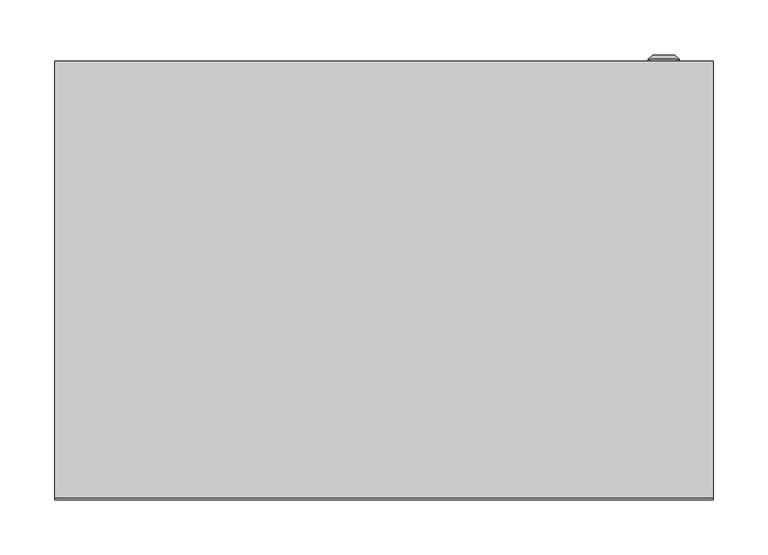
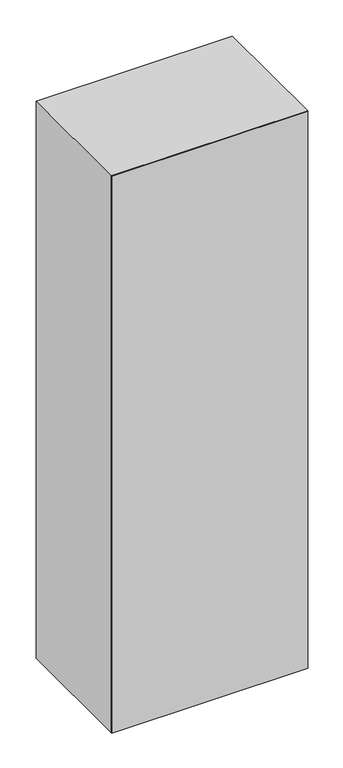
"""IFC4 building model written with IfcOpenShell, lengths in millimetres: proxy geometry, ЩМП : ЩМП-18.6.4-0_1800х600х400."""

from ifc_helpers import new_model, si_unit, frame, origin, origin_with_axes, place, context, project, spatial, polyline, circle_curve, outline, extrude, source, transform, mapped, element, save
from ifc_brep_helpers import plane_surface, cylinder_surface, revolved_surface, advanced_brep


def electrical_equipment_190d6f64(model_context):
    return source(origin(), model_context, "Body", "SolidModel", [
        advanced_brep(
        [(240.669873, 400.0, 900.0), (269.330127, 400.0, 900.0), (255.0, 400.0, 900.0), (240.669873, 402.366592, 900.0), (269.330127, 402.366592, 900.0), (245.0, 406.0, 900.0), (265.0, 406.0, 900.0), (253.1080471, 406.0, 900.0), (256.8919529, 406.0, 900.0), (253.1080471, 404.9822294, 900.0), (256.8919529, 404.9822294, 900.0), (255.0, 404.9822294, 900.0)],
        [
            (0, 1, circle_curve(frame((255.0, 400.0, 900.0), z_axis=(0.0, -1.0, 0.0), x_axis=(1.0, 0.0, 0.0)), 14.330127)),
            (1, 2),
            (2, 0),
            (1, 0, circle_curve(frame((255.0, 400.0, 900.0), z_axis=(0.0, -1.0, 0.0), x_axis=(1.0, 0.0, 0.0)), 14.330127)),
            (3, 4, circle_curve(frame((255.0, 402.366592, 900.0), z_axis=(0.0, -1.0, 0.0), x_axis=(1.0, 0.0, 0.0)), 14.330127)),
            (4, 1),
            (0, 3),
            (4, 3, circle_curve(frame((255.0, 402.366592, 900.0), z_axis=(0.0, -1.0, 0.0), x_axis=(1.0, 0.0, 0.0)), 14.330127)),
            (5, 6, circle_curve(frame((255.0, 406.0, 900.0), z_axis=(0.0, -1.0, 0.0), x_axis=(1.0, 0.0, 0.0)), 10.0)),
            (6, 4),
            (3, 5),
            (6, 5, circle_curve(frame((255.0, 406.0, 900.0), z_axis=(0.0, -1.0, 0.0), x_axis=(1.0, 0.0, 0.0)), 10.0)),
            (7, 8, circle_curve(frame((255.0, 406.0, 900.0), z_axis=(0.0, -1.0, 0.0), x_axis=(1.0, 0.0, 0.0)), 1.8919529)),
            (8, 6),
            (5, 7),
            (8, 7, circle_curve(frame((255.0, 406.0, 900.0), z_axis=(0.0, -1.0, 0.0), x_axis=(1.0, 0.0, 0.0)), 1.8919529)),
            (9, 10, circle_curve(frame((255.0, 404.9822294, 900.0), z_axis=(0.0, -1.0, 0.0), x_axis=(1.0, 0.0, 0.0)), 1.8919529)),
            (10, 8),
            (7, 9),
            (10, 9, circle_curve(frame((255.0, 404.9822294, 900.0), z_axis=(0.0, -1.0, 0.0), x_axis=(1.0, 0.0, 0.0)), 1.8919529)),
            (11, 10),
            (9, 11),
        ],
        [
            plane_surface(frame((255.0, 400.0, 900.0), z_axis=(0.0, -1.0, 0.0), x_axis=(1.0, 0.0, 0.0))),
            cylinder_surface(frame((255.0, 413.1348851, 900.0), z_axis=(0.0, 1.0, 0.0), x_axis=(1.0, 0.0, 0.0)), 14.330127),
            revolved_surface(polyline([(269.330127, 402.366592, 900.0), (265.0, 406.0, 900.0)]), (255.0, 413.1348851, 900.0), (0.0, 1.0, 0.0)),
            plane_surface(frame((255.0, 406.0, 900.0), z_axis=(0.0, 1.0, 0.0), x_axis=(1.0, 0.0, 0.0))),
            revolved_surface(polyline([(256.8919529, 406.0, 900.0), (256.8919529, 404.9822294, 900.0)]), (255.0, 413.1348851, 900.0), (0.0, 1.0, 0.0)),
            plane_surface(frame((255.0, 404.9822294, 900.0), z_axis=(0.0, 1.0, 0.0), x_axis=(1.0, 0.0, 0.0))),
        ],
        [
            (0, [[1, 2, 3]]),
            (0, [[4, -3, -2]]),
            (1, [[5, 6, -1, 7]]),
            (1, [[8, -7, -4, -6]]),
            (2, [[9, 10, -5, 11]]),
            (2, [[12, -11, -8, -10]]),
            (3, [[13, 14, -9, 15]]),
            (3, [[16, -15, -12, -14]]),
            (4, [[17, 18, -13, 19]]),
            (4, [[20, -19, -16, -18]]),
            (5, [[21, -17, 22]]),
            (5, [[-22, -20, -21]]),
        ],
    ),
        extrude(outline(polyline([(281.5, 375.0), (-281.5, 375.0), (-281.5, 400.0), (281.5, 400.0), (281.5, 375.0)])), frame((0.0, 0.0, 18.5), z_axis=(0.0, 0.0, 1.0), x_axis=(1.0, 0.0, 0.0)), (0.0, 0.0, 1.0), 1763.0),
        extrude(outline(polyline([(1800.0, -300.0033905), (0.0, -300.0033905), (0.0, 299.9966095), (1800.0, 299.9966095), (1800.0, -300.0033905)]), holes=[polyline([(1765.0, -265.0033905), (1765.0, 264.9966095), (35.0, 264.9966095), (35.0, -265.0033905), (1765.0, -265.0033905)])]), frame((0.0, 2.0, 0.0), z_axis=(0.0, 1.0, 0.0), x_axis=(0.0, 0.0, 1.0)), (0.0, 0.0, 1.0), 398.0),
        extrude(outline(polyline([(300.0, 0.0), (-300.0, 0.0), (-300.0, 2.0), (300.0, 2.0), (300.0, 0.0)])), origin_with_axes(), (0.0, 0.0, 1.0), 1800.0),
    ])


if __name__ == "__main__":
    model = new_model("IFC4")
    model_context = context("Model", 3, world=origin())
    ifc_project = project(units=[si_unit("LENGTHUNIT", "METRE", prefix="MILLI")], contexts=[model_context])
    site = spatial("IfcSite", under=ifc_project)
    building = spatial("IfcBuilding", under=site)
    placement = place(None, origin())
    electrical_equipment_shape = electrical_equipment_190d6f64(model_context)
    element("IfcBuildingElementProxy", 1, Name="ЩМП : ЩМП-18.6.4-0_1800х600х400", ObjectType="ЩМП : ЩМП-18.6.4-0_1800х600х400", at=placement, inside=building, context=model_context, shape_type="MappedRepresentation", body=[
        mapped(electrical_equipment_shape, transform((0.0, 0.0, 0.0), x_axis=(1.0, 0.0, 0.0), y_axis=(0.0, 1.0, 0.0), z_axis=(0.0, 0.0, 1.0))),
    ])
    save(model, "model.ifc")
